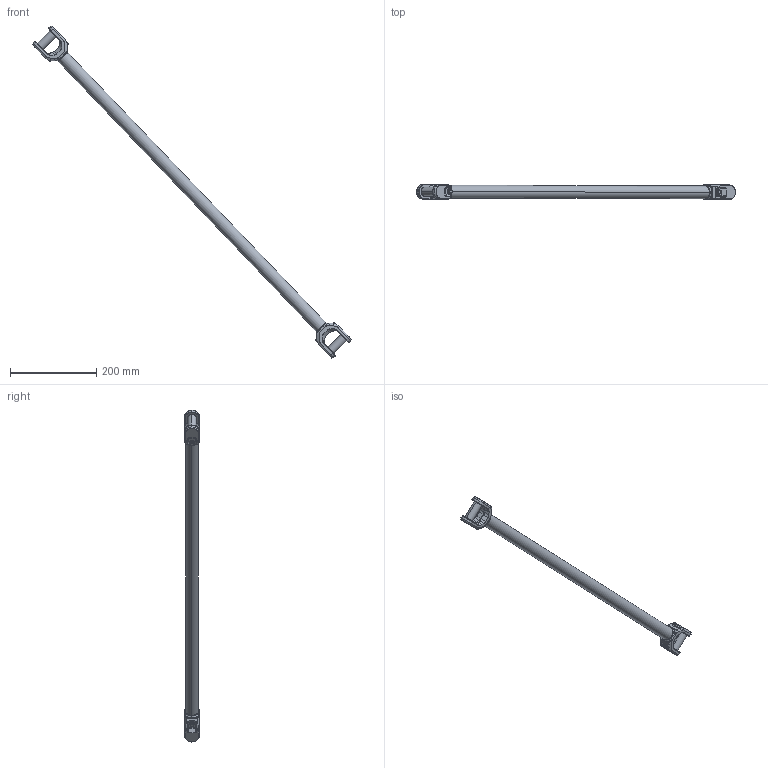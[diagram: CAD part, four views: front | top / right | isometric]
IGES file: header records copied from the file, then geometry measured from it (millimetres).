
Start section: SolidWorks IGES file using analytic representation for surfaces
Global section: file name: C:\Data\SAP_DOC_20200123_IRB390\Lättmodeller_IRB390\Final_4axis\IRB390_15kg_1300_STD_rev0_IGES_J\IRB390_X_1300_STD_LA1_2_00.IGS; native system: SolidWorks 2018; preprocessor: SolidWorks 2018; author: sestdan2; date: 200204.155855; units: millimetre
Bounding box: 739.36 x 34 x 769.72 mm (x, y, z)
Surface area: 113539.3 mm2 (no closed solid volume)
Topology: 0 solids, 0 shells, 436 faces, 4880 edges, 4880 vertices
Faces by surface type: revolution 226, bspline 210
